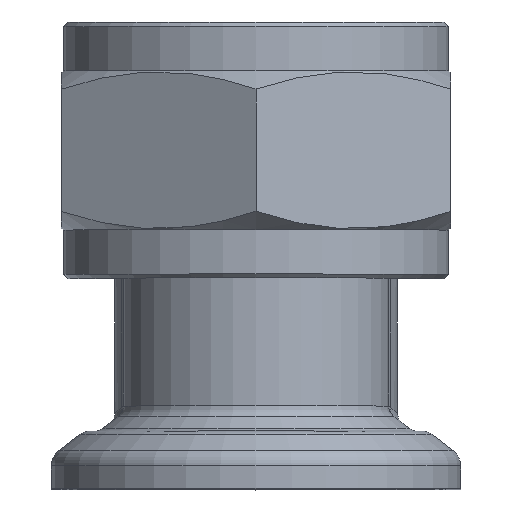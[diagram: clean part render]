
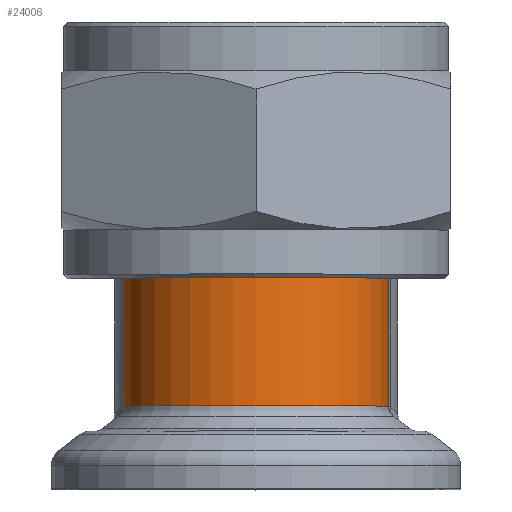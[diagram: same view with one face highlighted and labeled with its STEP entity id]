
A CAD part, top view. The second image highlights one B-rep face of the part: STEP entity #24006.
In plain terms, the highlighted cylindrical face has radius 7.495 mm (diameter 14.991 mm), a partial arc.
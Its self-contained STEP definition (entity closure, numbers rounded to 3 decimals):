
#33 = EDGE_CURVE ( 'NONE', #11728, #19383, #24118, .T. ) ;
#227 = VERTEX_POINT ( 'NONE', #4510 ) ;
#1253 = ORIENTED_EDGE ( 'NONE', *, *, #4765, .T. ) ;
#1928 = CARTESIAN_POINT ( 'NONE',  ( -7.495, -7.38, 19.728 ) ) ;
#4192 = VERTEX_POINT ( 'NONE', #10242 ) ;
#4222 = AXIS2_PLACEMENT_3D ( 'NONE', #9887, #14043, #21517 ) ;
#4510 = CARTESIAN_POINT ( 'NONE',  ( 7.495, -7.38, 19.728 ) ) ;
#4646 = VECTOR ( 'NONE', #22108, 1000. ) ;
#4765 = EDGE_CURVE ( 'NONE', #19383, #227, #15319, .T. ) ;
#5537 = FACE_OUTER_BOUND ( 'NONE', #7345, .T. ) ;
#5659 = CYLINDRICAL_SURFACE ( 'NONE', #8473, 7.495 ) ;
#7261 = DIRECTION ( 'NONE',  ( 0., -1., 0. ) ) ;
#7345 = EDGE_LOOP ( 'NONE', ( #22017, #1253, #10080, #11040 ) ) ;
#8392 = EDGE_CURVE ( 'NONE', #4192, #227, #22351, .T. ) ;
#8473 = AXIS2_PLACEMENT_3D ( 'NONE', #12762, #7261, #20233 ) ;
#9490 = CARTESIAN_POINT ( 'NONE',  ( 7.495, -0.143, 19.728 ) ) ;
#9887 = CARTESIAN_POINT ( 'NONE',  ( 0., -0.143, 19.728 ) ) ;
#10080 = ORIENTED_EDGE ( 'NONE', *, *, #8392, .F. ) ;
#10213 = DIRECTION ( 'NONE',  ( 0., 0., -1. ) ) ;
#10242 = CARTESIAN_POINT ( 'NONE',  ( 7.495, -0.143, 19.728 ) ) ;
#10622 = AXIS2_PLACEMENT_3D ( 'NONE', #23311, #14013, #10213 ) ;
#11040 = ORIENTED_EDGE ( 'NONE', *, *, #15162, .T. ) ;
#11728 = VERTEX_POINT ( 'NONE', #20504 ) ;
#12762 = CARTESIAN_POINT ( 'NONE',  ( 0., -0.143, 19.728 ) ) ;
#14013 = DIRECTION ( 'NONE',  ( 0., 1., 0. ) ) ;
#14043 = DIRECTION ( 'NONE',  ( 0., -1., 0. ) ) ;
#14926 = DIRECTION ( 'NONE',  ( 0., -1., 0. ) ) ;
#15162 = EDGE_CURVE ( 'NONE', #4192, #11728, #18295, .T. ) ;
#15319 = CIRCLE ( 'NONE', #10622, 7.495 ) ;
#18295 = CIRCLE ( 'NONE', #4222, 7.495 ) ;
#19383 = VERTEX_POINT ( 'NONE', #1928 ) ;
#19699 = VECTOR ( 'NONE', #14926, 1000. ) ;
#20197 = CARTESIAN_POINT ( 'NONE',  ( -7.495, -0.143, 19.728 ) ) ;
#20233 = DIRECTION ( 'NONE',  ( 0., 0., -1. ) ) ;
#20504 = CARTESIAN_POINT ( 'NONE',  ( -7.495, -0.143, 19.728 ) ) ;
#21517 = DIRECTION ( 'NONE',  ( 1., 0., 0. ) ) ;
#22017 = ORIENTED_EDGE ( 'NONE', *, *, #33, .T. ) ;
#22108 = DIRECTION ( 'NONE',  ( 0., -1., 0. ) ) ;
#22351 = LINE ( 'NONE', #9490, #4646 ) ;
#23311 = CARTESIAN_POINT ( 'NONE',  ( 0., -7.38, 19.728 ) ) ;
#24006 = ADVANCED_FACE ( 'NONE', ( #5537 ), #5659, .T. ) ;
#24118 = LINE ( 'NONE', #20197, #19699 ) ;
